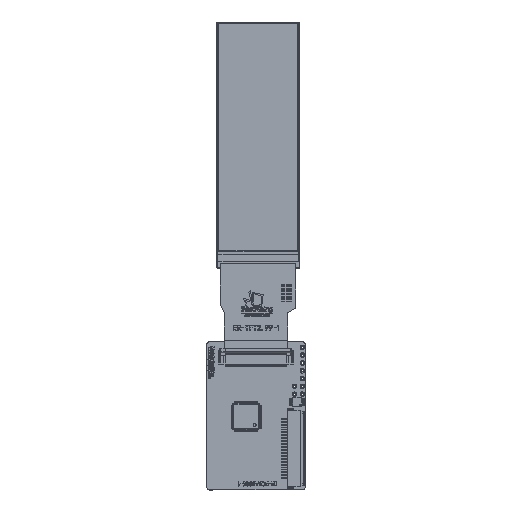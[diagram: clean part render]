
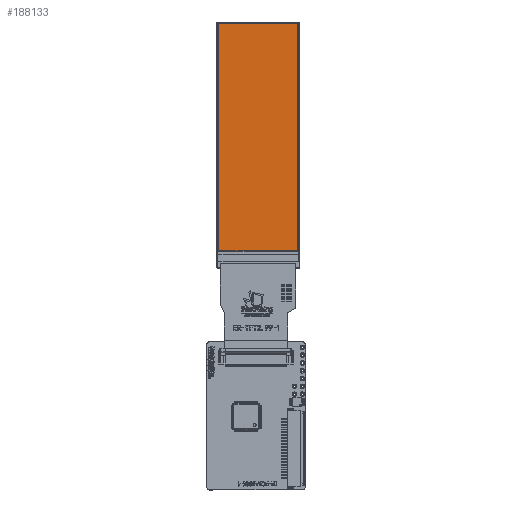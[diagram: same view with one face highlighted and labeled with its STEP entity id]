
A CAD part, top view. The second image highlights one B-rep face of the part: STEP entity #188133.
In plain terms, the highlighted planar face has unit normal (0, 0, 1) as drawn and (0, 0, -1) by its records, which use the part's own axes.
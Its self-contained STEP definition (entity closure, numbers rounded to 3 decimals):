
#4439 = VECTOR ( 'NONE', #238984, 1000. ) ;
#15460 = LINE ( 'NONE', #35672, #4439 ) ;
#26762 = CARTESIAN_POINT ( 'NONE',  ( -12.74, 39.64, -1.72 ) ) ;
#26809 = CARTESIAN_POINT ( 'NONE',  ( -12.74, -34.36, -1.72 ) ) ;
#35672 = CARTESIAN_POINT ( 'NONE',  ( -12.74, 39.69, -1.72 ) ) ;
#38872 = CARTESIAN_POINT ( 'NONE',  ( 12.76, -34.36, -1.72 ) ) ;
#38950 = CARTESIAN_POINT ( 'NONE',  ( 12.76, 0., -1.72 ) ) ;
#42910 = VERTEX_POINT ( 'NONE', #38872 ) ;
#51142 = VECTOR ( 'NONE', #236821, 1000. ) ;
#57489 = ORIENTED_EDGE ( 'NONE', *, *, #174640, .F. ) ;
#69124 = CARTESIAN_POINT ( 'NONE',  ( 12.76, 39.64, -1.72 ) ) ;
#82521 = EDGE_CURVE ( 'NONE', #247103, #42910, #99092, .T. ) ;
#93397 = VECTOR ( 'NONE', #222113, 1000. ) ;
#99092 = LINE ( 'NONE', #256868, #51142 ) ;
#114960 = ORIENTED_EDGE ( 'NONE', *, *, #148125, .T. ) ;
#121126 = ORIENTED_EDGE ( 'NONE', *, *, #146735, .F. ) ;
#121875 = LINE ( 'NONE', #38950, #139072 ) ;
#124591 = DIRECTION ( 'NONE',  ( -1., 0., 0. ) ) ;
#137985 = LINE ( 'NONE', #202012, #93397 ) ;
#139072 = VECTOR ( 'NONE', #203347, 1000. ) ;
#144599 = DIRECTION ( 'NONE',  ( 0., 0., -1. ) ) ;
#146735 = EDGE_CURVE ( 'NONE', #229542, #222238, #137985, .T. ) ;
#148125 = EDGE_CURVE ( 'NONE', #247103, #222238, #15460, .T. ) ;
#155429 = PLANE ( 'NONE',  #189491 ) ;
#174640 = EDGE_CURVE ( 'NONE', #42910, #229542, #121875, .T. ) ;
#188133 = ADVANCED_FACE ( 'NONE', ( #239634 ), #155429, .T. ) ;
#189491 = AXIS2_PLACEMENT_3D ( 'NONE', #224848, #144599, #124591 ) ;
#202012 = CARTESIAN_POINT ( 'NONE',  ( 0., 39.64, -1.72 ) ) ;
#203347 = DIRECTION ( 'NONE',  ( 0., 1., 0. ) ) ;
#222113 = DIRECTION ( 'NONE',  ( -1., 0., 0. ) ) ;
#222238 = VERTEX_POINT ( 'NONE', #26762 ) ;
#224636 = EDGE_LOOP ( 'NONE', ( #121126, #57489, #256020, #114960 ) ) ;
#224848 = CARTESIAN_POINT ( 'NONE',  ( 0., 0., -1.72 ) ) ;
#229542 = VERTEX_POINT ( 'NONE', #69124 ) ;
#236821 = DIRECTION ( 'NONE',  ( 1., 0., 0. ) ) ;
#238984 = DIRECTION ( 'NONE',  ( 0., 1., 0. ) ) ;
#239634 = FACE_OUTER_BOUND ( 'NONE', #224636, .T. ) ;
#247103 = VERTEX_POINT ( 'NONE', #26809 ) ;
#256020 = ORIENTED_EDGE ( 'NONE', *, *, #82521, .F. ) ;
#256868 = CARTESIAN_POINT ( 'NONE',  ( 0., -34.36, -1.72 ) ) ;
